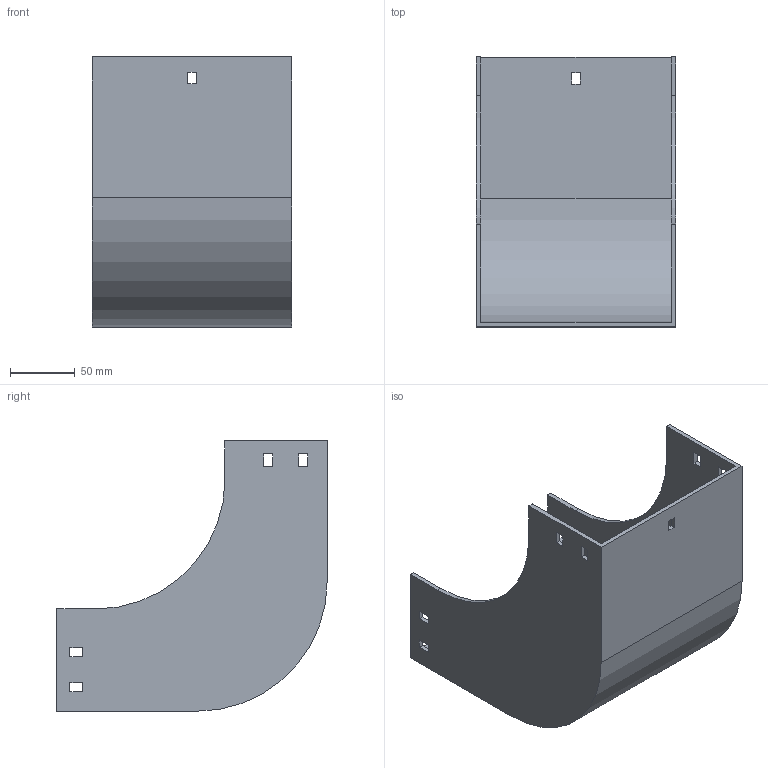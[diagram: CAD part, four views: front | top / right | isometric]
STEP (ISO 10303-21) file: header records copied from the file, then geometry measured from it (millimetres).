
FILE_DESCRIPTION (( 'STEP AP214' ), '1' );
FILE_NAME ('30F1C150.step', '2025-02-21T13:02:05', ( '' ), ( '' ), 'SwSTEP 2.0', 'SolidWorks 2023', '' );
FILE_SCHEMA (( 'AUTOMOTIVE_DESIGN' ));
Length unit declared in the file: millimetre
Products named in the file (1): 30F1C150
Bounding box: 154 x 209 x 209 mm (x, y, z)
Volume: 376661.7 mm3; surface area: 220078 mm2
Topology: 1 solids, 1 shells, 58 faces, 168 edges, 112 vertices
Faces by surface type: plane 54, cylinder 4
Entity records: 1943 total; most frequent: CARTESIAN_POINT 339, ORIENTED_EDGE 336, DIRECTION 294, EDGE_CURVE 168, LINE 160, VECTOR 160, VERTEX_POINT 112, EDGE_LOOP 78
